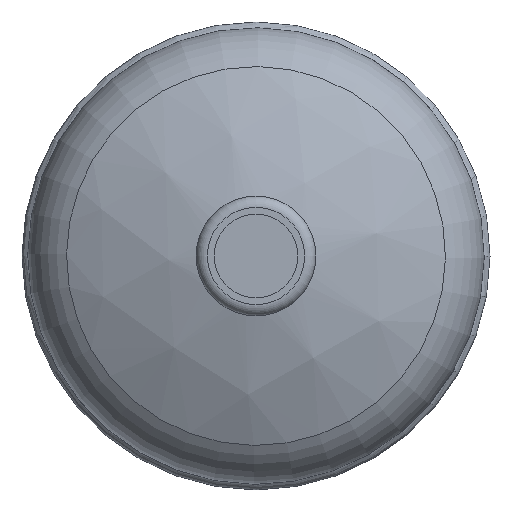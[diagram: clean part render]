
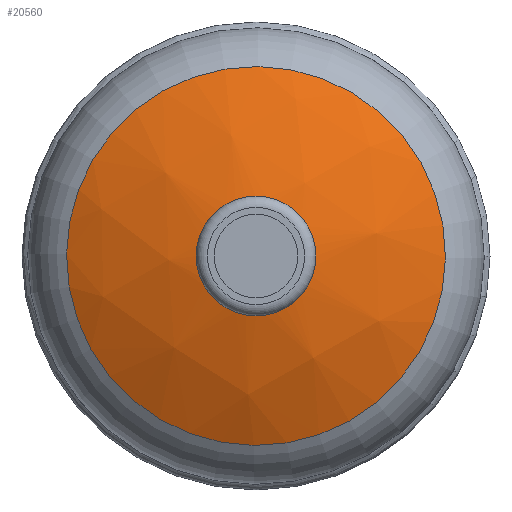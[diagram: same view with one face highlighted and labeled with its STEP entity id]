
A CAD part, front view. The second image highlights one B-rep face of the part: STEP entity #20560.
In plain terms, the highlighted spherical face has radius 105 mm.
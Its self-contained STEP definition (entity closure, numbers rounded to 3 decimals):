
#650=SPHERICAL_SURFACE('',#21652,105.);
#6530=FACE_BOUND('',#8685,.T.);
#6531=FACE_BOUND('',#8686,.T.);
#8685=EDGE_LOOP('',(#19262));
#8686=EDGE_LOOP('',(#19263));
#8704=CIRCLE('',#20573,15.955);
#9063=CIRCLE('',#21653,50.647);
#9068=VERTEX_POINT('',#25464);
#10967=VERTEX_POINT('',#42752);
#10972=EDGE_CURVE('',#9068,#9068,#8704,.T.);
#13815=EDGE_CURVE('',#10967,#10967,#9063,.T.);
#19262=ORIENTED_EDGE('',*,*,#10972,.T.);
#19263=ORIENTED_EDGE('',*,*,#13815,.F.);
#20560=ADVANCED_FACE('',(#6530,#6531),#650,.T.);
#20573=AXIS2_PLACEMENT_3D('',#25465,#21671,#21672);
#21652=AXIS2_PLACEMENT_3D('',#42751,#25107,#25108);
#21653=AXIS2_PLACEMENT_3D('',#42753,#25109,#25110);
#21671=DIRECTION('center_axis',(0.,1.,0.));
#21672=DIRECTION('ref_axis',(0.,0.,-1.));
#25107=DIRECTION('center_axis',(-0.491,0.,
0.871));
#25108=DIRECTION('ref_axis',(-0.871,0.,
-0.491));
#25109=DIRECTION('center_axis',(0.,1.,0.));
#25110=DIRECTION('ref_axis',(0.871,0.,0.491));
#25464=CARTESIAN_POINT('',(0.,-58.781,-15.955));
#25465=CARTESIAN_POINT('Origin',(0.,-58.781,0.));
#42751=CARTESIAN_POINT('Origin',(0.,45.,0.));
#42752=CARTESIAN_POINT('',(44.116,-46.978,24.877));
#42753=CARTESIAN_POINT('Origin',(0.,-46.978,
0.));
